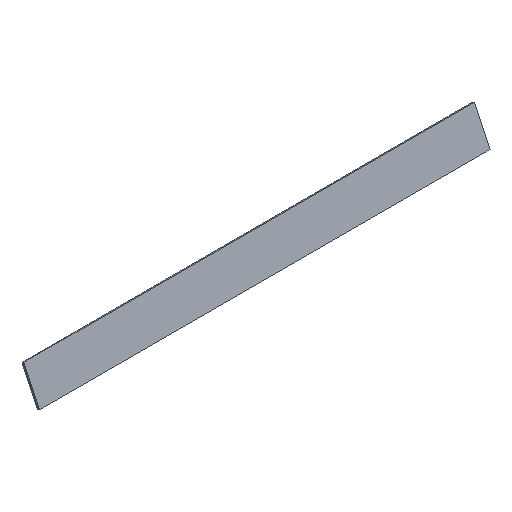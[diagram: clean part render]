
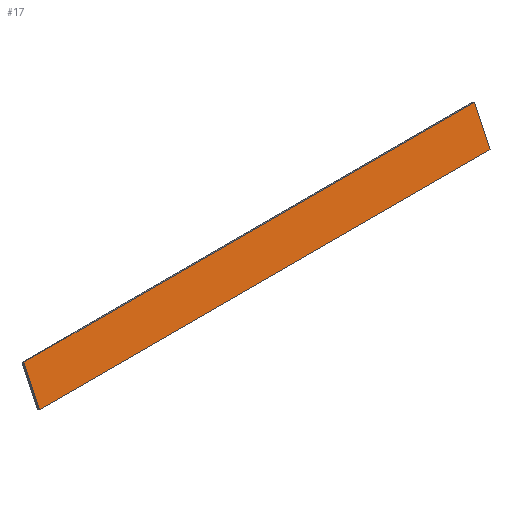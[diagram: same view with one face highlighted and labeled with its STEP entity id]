
A CAD part, isometric view. The second image highlights one B-rep face of the part: STEP entity #17.
In plain terms, the highlighted planar face has unit normal (0, -0.906, 0.423).
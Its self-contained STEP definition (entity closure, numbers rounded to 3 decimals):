
#17 = ADVANCED_FACE('',(#18),#32,.F.);
#18 = FACE_BOUND('',#19,.F.);
#19 = EDGE_LOOP('',(#20,#55,#80,#108));
#20 = ORIENTED_EDGE('',*,*,#21,.T.);
#21 = EDGE_CURVE('',#22,#24,#26,.T.);
#22 = VERTEX_POINT('',#23);
#23 = CARTESIAN_POINT('',(-126.,-159.086,12.388));
#24 = VERTEX_POINT('',#25);
#25 = CARTESIAN_POINT('',(-126.,-154.733,21.723));
#26 = SURFACE_CURVE('',#27,(#31,#43),.PCURVE_S1.);
#27 = LINE('',#28,#29);
#28 = CARTESIAN_POINT('',(-126.,-159.086,12.388));
#29 = VECTOR('',#30,1.);
#30 = DIRECTION('',(0.,0.423,0.906));
#31 = PCURVE('',#32,#37);
#32 = PLANE('',#33);
#33 = AXIS2_PLACEMENT_3D('',#34,#35,#36);
#34 = CARTESIAN_POINT('',(-0.15,-159.086,12.388));
#35 = DIRECTION('',(0.,0.906,-0.423));
#36 = DIRECTION('',(0.,0.423,0.906));
#37 = DEFINITIONAL_REPRESENTATION('',(#38),#42);
#38 = LINE('',#39,#40);
#39 = CARTESIAN_POINT('',(0.,-125.85));
#40 = VECTOR('',#41,1.);
#41 = DIRECTION('',(1.,0.));
#42 = ( GEOMETRIC_REPRESENTATION_CONTEXT(2) 
PARAMETRIC_REPRESENTATION_CONTEXT() REPRESENTATION_CONTEXT('2D SPACE',''
  ) );
#43 = PCURVE('',#44,#49);
#44 = PLANE('',#45);
#45 = AXIS2_PLACEMENT_3D('',#46,#47,#48);
#46 = CARTESIAN_POINT('',(-126.,-159.086,12.388));
#47 = DIRECTION('',(-1.,0.,0.));
#48 = DIRECTION('',(0.,0.475,0.88));
#49 = DEFINITIONAL_REPRESENTATION('',(#50),#54);
#50 = LINE('',#51,#52);
#51 = CARTESIAN_POINT('',(0.,0.));
#52 = VECTOR('',#53,1.);
#53 = DIRECTION('',(0.998,-0.058));
#54 = ( GEOMETRIC_REPRESENTATION_CONTEXT(2) 
PARAMETRIC_REPRESENTATION_CONTEXT() REPRESENTATION_CONTEXT('2D SPACE',''
  ) );
#55 = ORIENTED_EDGE('',*,*,#56,.T.);
#56 = EDGE_CURVE('',#24,#57,#59,.T.);
#57 = VERTEX_POINT('',#58);
#58 = CARTESIAN_POINT('',(-0.15,-154.733,21.723));
#59 = SURFACE_CURVE('',#60,(#63,#69),.PCURVE_S1.);
#60 = B_SPLINE_CURVE_WITH_KNOTS('',1,(#61,#62),.UNSPECIFIED.,.F.,.F.,(2,
    2),(0.,1.),.PIECEWISE_BEZIER_KNOTS.);
#61 = CARTESIAN_POINT('',(-126.,-154.733,21.723));
#62 = CARTESIAN_POINT('',(-0.15,-154.733,21.723));
#63 = PCURVE('',#32,#64);
#64 = DEFINITIONAL_REPRESENTATION('',(#65),#68);
#65 = B_SPLINE_CURVE_WITH_KNOTS('',1,(#66,#67),.UNSPECIFIED.,.F.,.F.,(2,
    2),(0.,1.),.PIECEWISE_BEZIER_KNOTS.);
#66 = CARTESIAN_POINT('',(10.3,-125.85));
#67 = CARTESIAN_POINT('',(10.3,0.));
#68 = ( GEOMETRIC_REPRESENTATION_CONTEXT(2) 
PARAMETRIC_REPRESENTATION_CONTEXT() REPRESENTATION_CONTEXT('2D SPACE',''
  ) );
#69 = PCURVE('',#70,#75);
#70 = PLANE('',#71);
#71 = AXIS2_PLACEMENT_3D('',#72,#73,#74);
#72 = CARTESIAN_POINT('',(-0.15,-154.733,21.723));
#73 = DIRECTION('',(0.,-0.423,-0.906));
#74 = DIRECTION('',(0.,0.906,-0.423));
#75 = DEFINITIONAL_REPRESENTATION('',(#76),#79);
#76 = B_SPLINE_CURVE_WITH_KNOTS('',1,(#77,#78),.UNSPECIFIED.,.F.,.F.,(2,
    2),(0.,1.),.PIECEWISE_BEZIER_KNOTS.);
#77 = CARTESIAN_POINT('',(0.,-125.85));
#78 = CARTESIAN_POINT('',(0.,0.));
#79 = ( GEOMETRIC_REPRESENTATION_CONTEXT(2) 
PARAMETRIC_REPRESENTATION_CONTEXT() REPRESENTATION_CONTEXT('2D SPACE',''
  ) );
#80 = ORIENTED_EDGE('',*,*,#81,.F.);
#81 = EDGE_CURVE('',#82,#57,#84,.T.);
#82 = VERTEX_POINT('',#83);
#83 = CARTESIAN_POINT('',(-0.15,-159.086,12.388));
#84 = SURFACE_CURVE('',#85,(#89,#96),.PCURVE_S1.);
#85 = LINE('',#86,#87);
#86 = CARTESIAN_POINT('',(-0.15,-159.086,12.388));
#87 = VECTOR('',#88,1.);
#88 = DIRECTION('',(0.,0.423,0.906));
#89 = PCURVE('',#32,#90);
#90 = DEFINITIONAL_REPRESENTATION('',(#91),#95);
#91 = LINE('',#92,#93);
#92 = CARTESIAN_POINT('',(0.,0.));
#93 = VECTOR('',#94,1.);
#94 = DIRECTION('',(1.,0.));
#95 = ( GEOMETRIC_REPRESENTATION_CONTEXT(2) 
PARAMETRIC_REPRESENTATION_CONTEXT() REPRESENTATION_CONTEXT('2D SPACE',''
  ) );
#96 = PCURVE('',#97,#102);
#97 = PLANE('',#98);
#98 = AXIS2_PLACEMENT_3D('',#99,#100,#101);
#99 = CARTESIAN_POINT('',(-0.15,-159.086,12.388));
#100 = DIRECTION('',(-1.,0.,0.));
#101 = DIRECTION('',(0.,0.475,0.88));
#102 = DEFINITIONAL_REPRESENTATION('',(#103),#107);
#103 = LINE('',#104,#105);
#104 = CARTESIAN_POINT('',(0.,0.));
#105 = VECTOR('',#106,1.);
#106 = DIRECTION('',(0.998,-0.058));
#107 = ( GEOMETRIC_REPRESENTATION_CONTEXT(2) 
PARAMETRIC_REPRESENTATION_CONTEXT() REPRESENTATION_CONTEXT('2D SPACE',''
  ) );
#108 = ORIENTED_EDGE('',*,*,#109,.F.);
#109 = EDGE_CURVE('',#22,#82,#110,.T.);
#110 = SURFACE_CURVE('',#111,(#114,#120),.PCURVE_S1.);
#111 = B_SPLINE_CURVE_WITH_KNOTS('',1,(#112,#113),.UNSPECIFIED.,.F.,.F.,
  (2,2),(0.,1.),.PIECEWISE_BEZIER_KNOTS.);
#112 = CARTESIAN_POINT('',(-126.,-159.086,12.388));
#113 = CARTESIAN_POINT('',(-0.15,-159.086,12.388));
#114 = PCURVE('',#32,#115);
#115 = DEFINITIONAL_REPRESENTATION('',(#116),#119);
#116 = B_SPLINE_CURVE_WITH_KNOTS('',1,(#117,#118),.UNSPECIFIED.,.F.,.F.,
  (2,2),(0.,1.),.PIECEWISE_BEZIER_KNOTS.);
#117 = CARTESIAN_POINT('',(0.,-125.85));
#118 = CARTESIAN_POINT('',(0.,0.));
#119 = ( GEOMETRIC_REPRESENTATION_CONTEXT(2) 
PARAMETRIC_REPRESENTATION_CONTEXT() REPRESENTATION_CONTEXT('2D SPACE',''
  ) );
#120 = PCURVE('',#121,#126);
#121 = PLANE('',#122);
#122 = AXIS2_PLACEMENT_3D('',#123,#124,#125);
#123 = CARTESIAN_POINT('',(-0.15,-158.542,12.134));
#124 = DIRECTION('',(-0.,0.423,0.906));
#125 = DIRECTION('',(0.,-0.906,0.423));
#126 = DEFINITIONAL_REPRESENTATION('',(#127),#130);
#127 = B_SPLINE_CURVE_WITH_KNOTS('',1,(#128,#129),.UNSPECIFIED.,.F.,.F.,
  (2,2),(0.,1.),.PIECEWISE_BEZIER_KNOTS.);
#128 = CARTESIAN_POINT('',(0.6,-125.85));
#129 = CARTESIAN_POINT('',(0.6,0.));
#130 = ( GEOMETRIC_REPRESENTATION_CONTEXT(2) 
PARAMETRIC_REPRESENTATION_CONTEXT() REPRESENTATION_CONTEXT('2D SPACE',''
  ) );
